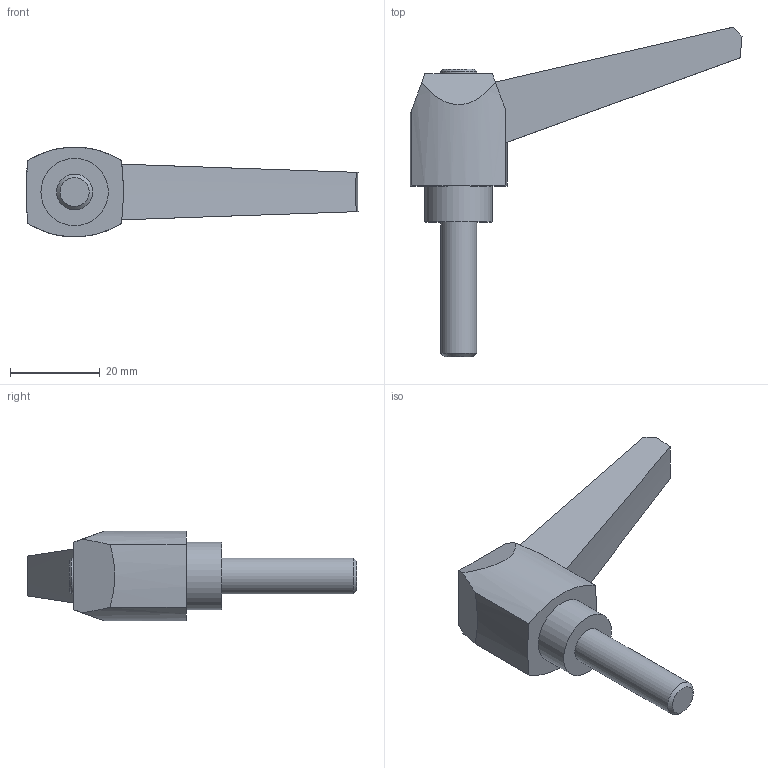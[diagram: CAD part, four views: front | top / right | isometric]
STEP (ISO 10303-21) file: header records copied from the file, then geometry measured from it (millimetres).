
FILE_DESCRIPTION( ( 'STEP AP203' ), '1' );
FILE_NAME( 'C:/Temp/Ganter_Step_05_03_2020/data/2_1/gn_500/gn_500_ms/Adjustable hand lever GN 500-63-M8-30-SW.stp', '2020-03-05T11:26:34', ( 'License CC BY-ND 4.0' ), ( 'CADENAS' ), ' ', 'PARTsolutions', ' ' );
FILE_SCHEMA( ( 'CONFIG_CONTROL_DESIGN' ) );
Length unit declared in the file: millimetre
Products named in the file (1): _Adjustable hand lever GN 500-63-M8-30-SW
Bounding box: 73.9 x 73.35 x 20 mm (x, y, z)
Volume: 17995.3 mm3; surface area: 5717.5 mm2
Topology: 1 solids, 1 shells, 24 faces, 56 edges, 37 vertices
Faces by surface type: plane 11, cylinder 7, cone 6
Full cylindrical faces by diameter (mm): 8 x2, 15 x1
Entity records: 708 total; most frequent: DIRECTION 122, CARTESIAN_POINT 117, ORIENTED_EDGE 100, EDGE_CURVE 50, AXIS2_PLACEMENT_3D 49, VERTEX_POINT 36, EDGE_LOOP 32, FACE_OUTER_BOUND 27
